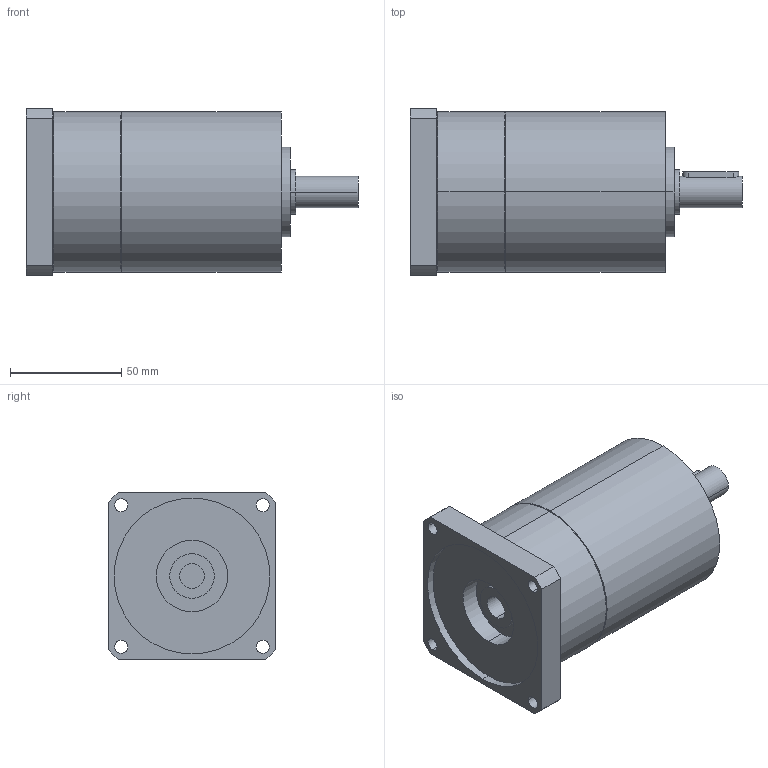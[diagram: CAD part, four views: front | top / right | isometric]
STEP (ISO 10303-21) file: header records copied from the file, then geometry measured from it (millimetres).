
FILE_DESCRIPTION(('CoCreate Modeling STEP Export'),'2;1');
FILE_NAME('GPT75_ig-9-12-16-20-25-28-35-40-50-70-100_14_B14T_11_P24.stp','2014-08-27T13:08:43',(''),(''),'CoCreate Modeling STEP processor for AP214 (Solid Model)','CoCreate Modeling 16.00C 25-Feb-2009 (C) Parametric Technology GmbH','');
FILE_SCHEMA(('AUTOMOTIVE_DESIGN { 1 0 10303 214 1 1 1 1 }'));
Length unit declared in the file: millimetre
Products named in the file (2): GPT75_ig-9-12-16-20-25-28-35-40-50-70-100_14_B14T_11_P24
Assembly tree (1 placements, depth 2):
  GPT75_ig-9-12-16-20-25-28-35-40-50-70-100_14_B14T_11_P24
    GPT75_ig-9-12-16-20-25-28-35-40-50-70-100_14_B14T_11_P24
Bounding box: 149 x 75 x 75 mm (x, y, z)
Volume: 470164.4 mm3; surface area: 44603.7 mm2
Topology: 1 solids, 1 shells, 69 faces, 163 edges, 110 vertices
Faces by surface type: cylinder 42, plane 23, cone 4
Entity records: 2146 total; most frequent: CARTESIAN_POINT 661, ORIENTED_EDGE 326, DIRECTION 262, EDGE_CURVE 163, VERTEX_POINT 110, AXIS2_PLACEMENT_3D 99, EDGE_LOOP 91, FACE_OUTER_BOUND 69
